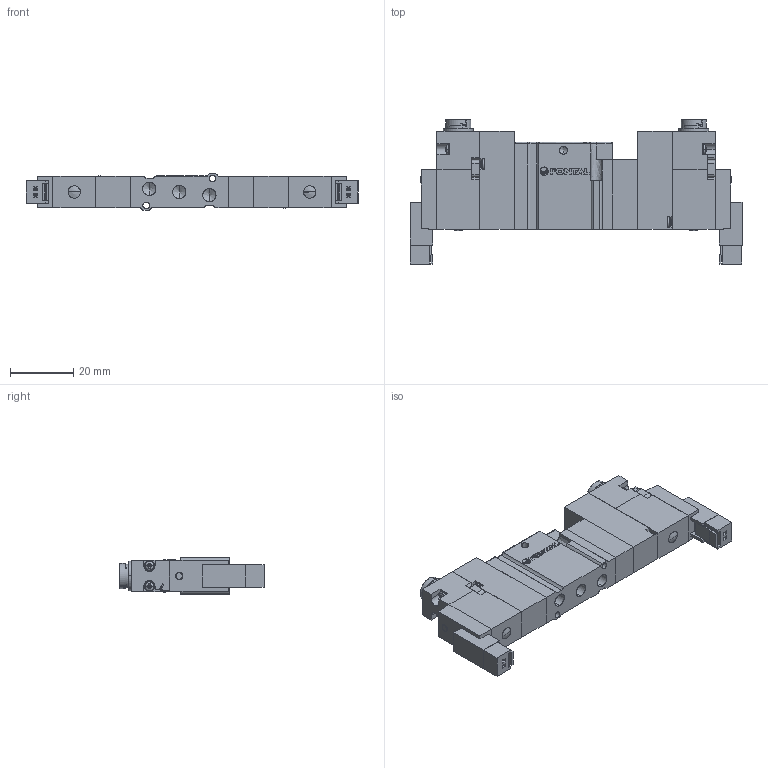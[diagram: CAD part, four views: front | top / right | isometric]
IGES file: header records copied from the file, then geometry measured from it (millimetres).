
Start section: SolidWorks IGES file using analytic representation for surfaces
Global section: file name: D:\Custom\3D繪製\ADEX\A05RS25\A05RD35#-#Q-#-E.IGS,1; native system: 5HSolidWorks 2014; preprocessor: SolidWorks 2014; author: Chieh_Lu; date: 150725.204530; units: millimetre
Bounding box: 105 x 45.6 x 11.4 mm (x, y, z)
Surface area: 17937.8 mm2 (no closed solid volume)
Topology: 0 solids, 0 shells, 1037 faces, 8458 edges, 8422 vertices
Faces by surface type: bspline 731, revolution 306
